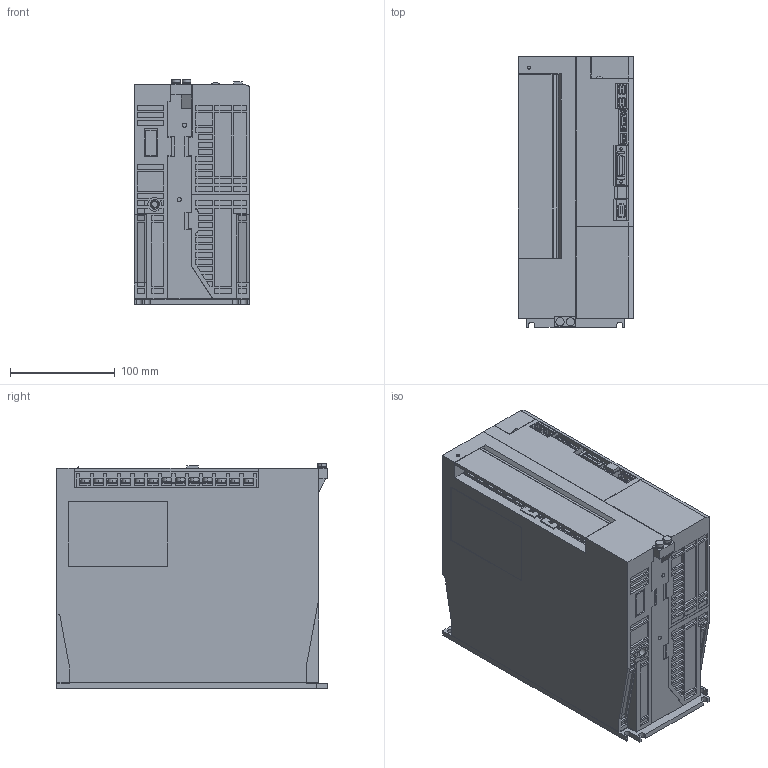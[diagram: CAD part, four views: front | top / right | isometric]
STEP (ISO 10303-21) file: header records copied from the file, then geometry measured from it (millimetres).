
FILE_DESCRIPTION (( 'STEP AP203' ), '1' );
FILE_NAME ('sgd7s_330a20a.STEP', '2015-09-18T08:29:44', ( '匠エンジニアリング山之内' ), ( 'TAKUMI-Engniaring' ), 'SwSTEP 2.0', 'SolidWorks 2006303', '' );
FILE_SCHEMA (( 'CONFIG_CONTROL_DESIGN' ));
Products named in the file (7): sgd7s_330a20a; sgd7s_330a20a_cover2; sgd7s_330a20a_base; sgd7s_330a20a_cover; sgd7s_330a20a_connector; sgd7s_330a20a_cover3; sgd7s_330a20a_terminal
Assembly tree (8 placements, depth 2):
  sgd7s_330a20a
    sgd7s_330a20a_connector
    sgd7s_330a20a_base
    sgd7s_330a20a_cover2  x2
    sgd7s_330a20a_cover
    sgd7s_330a20a_terminal  x2
    sgd7s_330a20a_cover3
Bounding box: 110.5 x 258 x 214.6 mm (x, y, z)
Volume: 5481293.5 mm3; surface area: 292672.7 mm2
Topology: 8 solids, 8 shells, 2239 faces, 5790 edges, 3822 vertices
Faces by surface type: plane 1917, cylinder 317, cone 4, sphere 1
Entity records: 66811 total; most frequent: CARTESIAN_POINT 11629, ORIENTED_EDGE 11352, DIRECTION 10740, EDGE_CURVE 5676, LINE 5026, VECTOR 5026, VERTEX_POINT 3746, AXIS2_PLACEMENT_3D 2857
